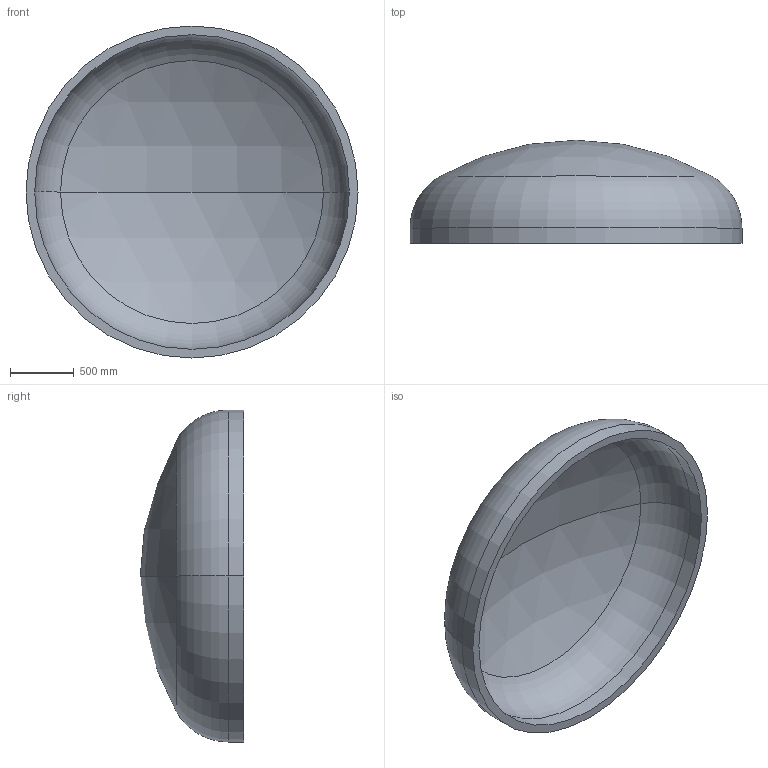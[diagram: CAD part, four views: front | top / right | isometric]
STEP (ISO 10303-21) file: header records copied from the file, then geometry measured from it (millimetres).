
FILE_DESCRIPTION (( 'STEP AP203' ), '1' );
FILE_NAME ('DIN 28013 Korbbogenform_-_Boden DIN 28013 - 2600 x 120 - I - s=68.step', '2016-07-01T16:21:28', ( '' ), ( '' ), 'SwSTEP 2.0', 'SolidWorks 2013', '' );
FILE_SCHEMA (( 'CONFIG_CONTROL_DESIGN' ));
Length unit declared in the file: millimetre
Products named in the file (1): DIN 28013 Korbbogenform_-_Boden DIN 28013 - 2600 x 120 - I - s=68
Bounding box: 2600 x 808.49 x 2600 mm (x, y, z)
Volume: 547989239.5 mm3; surface area: 16667916.7 mm2
Topology: 1 solids, 1 shells, 13 faces, 24 edges, 14 vertices
Faces by surface type: torus 4, cylinder 4, sphere 4, plane 1
Entity records: 407 total; most frequent: DIRECTION 72, CARTESIAN_POINT 52, ORIENTED_EDGE 48, AXIS2_PLACEMENT_3D 34, EDGE_CURVE 24, CIRCLE 20, VERTEX_POINT 14, EDGE_LOOP 14
